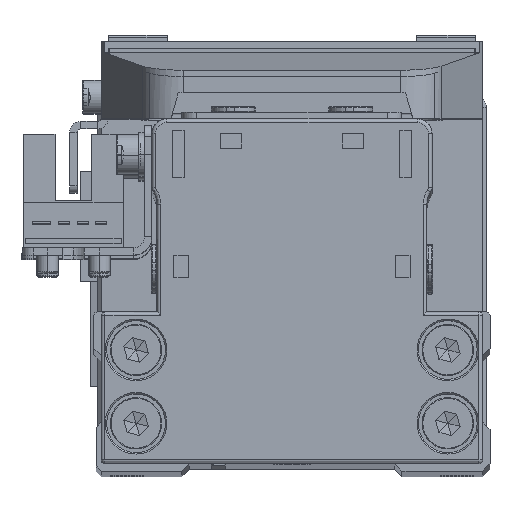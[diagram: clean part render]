
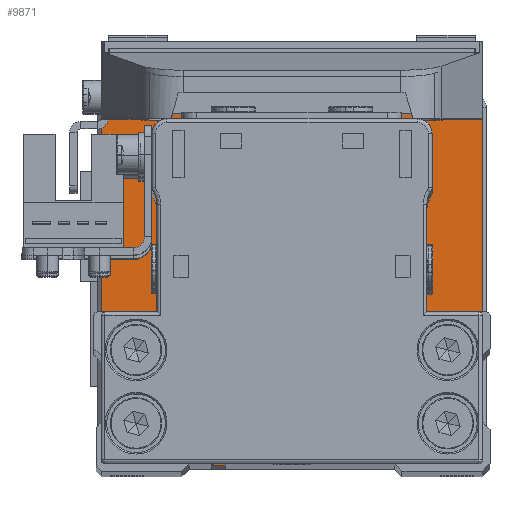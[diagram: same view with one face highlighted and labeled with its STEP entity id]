
A CAD part, top view. The second image highlights one B-rep face of the part: STEP entity #9871.
In plain terms, the highlighted planar face has unit normal (0, 0, 1).
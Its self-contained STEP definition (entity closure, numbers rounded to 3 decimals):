
#8 = ORIENTED_EDGE ( 'NONE', *, *, #374, .T. ) ;
#70 = FACE_BOUND ( 'NONE', #12785, .T. ) ;
#296 = ORIENTED_EDGE ( 'NONE', *, *, #2622, .T. ) ;
#374 = EDGE_CURVE ( 'NONE', #23775, #23513, #12039, .T. ) ;
#557 = VERTEX_POINT ( 'NONE', #30591 ) ;
#745 = DIRECTION ( 'NONE',  ( 0., 0., -1. ) ) ;
#1030 = ORIENTED_EDGE ( 'NONE', *, *, #2238, .T. ) ;
#1153 = CARTESIAN_POINT ( 'NONE',  ( -21.25, 19.95, 6.5 ) ) ;
#1466 = DIRECTION ( 'NONE',  ( -1., 0., 0. ) ) ;
#1768 = CARTESIAN_POINT ( 'NONE',  ( -21.25, 9.95, 6.5 ) ) ;
#2078 = CARTESIAN_POINT ( 'NONE',  ( 25., 24.95, 6.5 ) ) ;
#2121 = EDGE_LOOP ( 'NONE', ( #296, #11627 ) ) ;
#2145 = VERTEX_POINT ( 'NONE', #6523 ) ;
#2238 = EDGE_CURVE ( 'NONE', #14342, #25494, #23230, .T. ) ;
#2622 = EDGE_CURVE ( 'NONE', #26181, #2145, #14504, .T. ) ;
#2886 = EDGE_CURVE ( 'NONE', #23513, #3610, #29550, .T. ) ;
#3199 = CARTESIAN_POINT ( 'NONE',  ( -25., 24.95, 6.5 ) ) ;
#3273 = CARTESIAN_POINT ( 'NONE',  ( -25., -24.95, 6.5 ) ) ;
#3415 = AXIS2_PLACEMENT_3D ( 'NONE', #1768, #12256, #22712 ) ;
#3477 = CARTESIAN_POINT ( 'NONE',  ( 21.25, 19.95, 6.5 ) ) ;
#3532 = VERTEX_POINT ( 'NONE', #17340 ) ;
#3610 = VERTEX_POINT ( 'NONE', #30703 ) ;
#3901 = ORIENTED_EDGE ( 'NONE', *, *, #29190, .T. ) ;
#3951 = CARTESIAN_POINT ( 'NONE',  ( 25., -23.95, 6.5 ) ) ;
#4456 = CARTESIAN_POINT ( 'NONE',  ( 21.25, 9.95, 6.5 ) ) ;
#4714 = DIRECTION ( 'NONE',  ( 0., 0., -1. ) ) ;
#4858 = AXIS2_PLACEMENT_3D ( 'NONE', #5119, #15590, #26041 ) ;
#5119 = CARTESIAN_POINT ( 'NONE',  ( 25., 23.95, 6.5 ) ) ;
#5229 = CARTESIAN_POINT ( 'NONE',  ( -23.65, 9.95, 6.5 ) ) ;
#5262 = CIRCLE ( 'NONE', #24431, 2.4 ) ;
#5271 = VECTOR ( 'NONE', #15859, 1000. ) ;
#5382 = CARTESIAN_POINT ( 'NONE',  ( 26., 23.95, 6.5 ) ) ;
#5391 = DIRECTION ( 'NONE',  ( 1., 0., 0. ) ) ;
#5535 = ORIENTED_EDGE ( 'NONE', *, *, #18763, .T. ) ;
#5738 = EDGE_CURVE ( 'NONE', #16192, #30788, #9950, .T. ) ;
#6059 = CARTESIAN_POINT ( 'NONE',  ( 25., -24.95, 6.5 ) ) ;
#6090 = CARTESIAN_POINT ( 'NONE',  ( -25., -23.95, 6.5 ) ) ;
#6523 = CARTESIAN_POINT ( 'NONE',  ( -18.85, 9.95, 6.5 ) ) ;
#6627 = CARTESIAN_POINT ( 'NONE',  ( -21.25, 19.95, 6.5 ) ) ;
#6653 = DIRECTION ( 'NONE',  ( 0., 0., -1. ) ) ;
#7163 = DIRECTION ( 'NONE',  ( 1., 0., 0. ) ) ;
#7318 = VERTEX_POINT ( 'NONE', #11213 ) ;
#7363 = EDGE_CURVE ( 'NONE', #25890, #23148, #29922, .T. ) ;
#7598 = EDGE_CURVE ( 'NONE', #557, #23775, #7879, .T. ) ;
#7617 = EDGE_LOOP ( 'NONE', ( #32164, #28901 ) ) ;
#7879 = LINE ( 'NONE', #18346, #32120 ) ;
#7980 = PLANE ( 'NONE',  #23682 ) ;
#8452 = AXIS2_PLACEMENT_3D ( 'NONE', #4456, #14926, #25379 ) ;
#8711 = ORIENTED_EDGE ( 'NONE', *, *, #7363, .T. ) ;
#9065 = ORIENTED_EDGE ( 'NONE', *, *, #32107, .T. ) ;
#9871 = ADVANCED_FACE ( 'NONE', ( #23586, #70, #10551, #21009, #31473 ), #7980, .T. ) ;
#9950 = CIRCLE ( 'NONE', #29111, 2.4 ) ;
#10090 = AXIS2_PLACEMENT_3D ( 'NONE', #20199, #30659, #7163 ) ;
#10551 = FACE_BOUND ( 'NONE', #2121, .T. ) ;
#11213 = CARTESIAN_POINT ( 'NONE',  ( 26., 23.95, 6.5 ) ) ;
#11229 = DIRECTION ( 'NONE',  ( -1., 0., 0. ) ) ;
#11627 = ORIENTED_EDGE ( 'NONE', *, *, #22210, .T. ) ;
#11650 = DIRECTION ( 'NONE',  ( 0., 0., -1. ) ) ;
#12039 = CIRCLE ( 'NONE', #31186, 1. ) ;
#12050 = CARTESIAN_POINT ( 'NONE',  ( 18.85, 9.95, 6.5 ) ) ;
#12256 = DIRECTION ( 'NONE',  ( 0., 0., -1. ) ) ;
#12666 = AXIS2_PLACEMENT_3D ( 'NONE', #24255, #745, #11229 ) ;
#12785 = EDGE_LOOP ( 'NONE', ( #1030, #21410 ) ) ;
#13196 = CIRCLE ( 'NONE', #32367, 2.4 ) ;
#13678 = DIRECTION ( 'NONE',  ( -1., 0., 0. ) ) ;
#13960 = DIRECTION ( 'NONE',  ( 0., 0., -1. ) ) ;
#14342 = VERTEX_POINT ( 'NONE', #12050 ) ;
#14429 = DIRECTION ( 'NONE',  ( 0., 0., 1. ) ) ;
#14504 = CIRCLE ( 'NONE', #33660, 2.4 ) ;
#14569 = CARTESIAN_POINT ( 'NONE',  ( 23.65, 9.95, 6.5 ) ) ;
#14681 = EDGE_LOOP ( 'NONE', ( #5535, #29746, #8, #26584, #22321, #3901, #9065, #22495 ) ) ;
#14926 = DIRECTION ( 'NONE',  ( 0., 0., -1. ) ) ;
#15145 = AXIS2_PLACEMENT_3D ( 'NONE', #3477, #13960, #24406 ) ;
#15195 = DIRECTION ( 'NONE',  ( -1., 0., 0. ) ) ;
#15376 = AXIS2_PLACEMENT_3D ( 'NONE', #3951, #14429, #24878 ) ;
#15389 = CARTESIAN_POINT ( 'NONE',  ( -23.65, 19.95, 6.5 ) ) ;
#15590 = DIRECTION ( 'NONE',  ( 0., 0., 1. ) ) ;
#15859 = DIRECTION ( 'NONE',  ( 0., 1., 0. ) ) ;
#16192 = VERTEX_POINT ( 'NONE', #15389 ) ;
#16534 = DIRECTION ( 'NONE',  ( 1., 0., 0. ) ) ;
#16567 = DIRECTION ( 'NONE',  ( 0., 0., 1. ) ) ;
#16874 = CARTESIAN_POINT ( 'NONE',  ( 23.65, 19.95, 6.5 ) ) ;
#17122 = DIRECTION ( 'NONE',  ( -1., 0., 0. ) ) ;
#17295 = EDGE_CURVE ( 'NONE', #30788, #16192, #13196, .T. ) ;
#17340 = CARTESIAN_POINT ( 'NONE',  ( -25., 24.95, 6.5 ) ) ;
#18207 = CIRCLE ( 'NONE', #3415, 2.4 ) ;
#18346 = CARTESIAN_POINT ( 'NONE',  ( -26., -23.95, 6.5 ) ) ;
#18416 = CARTESIAN_POINT ( 'NONE',  ( 26., -23.95, 6.5 ) ) ;
#18438 = CARTESIAN_POINT ( 'NONE',  ( 0., 0., 6.5 ) ) ;
#18763 = EDGE_CURVE ( 'NONE', #3532, #557, #24886, .T. ) ;
#19011 = ORIENTED_EDGE ( 'NONE', *, *, #26116, .T. ) ;
#19312 = EDGE_LOOP ( 'NONE', ( #8711, #19011 ) ) ;
#19326 = CARTESIAN_POINT ( 'NONE',  ( 18.85, 19.95, 6.5 ) ) ;
#19655 = CIRCLE ( 'NONE', #4858, 1. ) ;
#20002 = CARTESIAN_POINT ( 'NONE',  ( -18.85, 19.95, 6.5 ) ) ;
#20199 = CARTESIAN_POINT ( 'NONE',  ( -25., 23.95, 6.5 ) ) ;
#20711 = EDGE_CURVE ( 'NONE', #25494, #14342, #27438, .T. ) ;
#21009 = FACE_BOUND ( 'NONE', #7617, .T. ) ;
#21410 = ORIENTED_EDGE ( 'NONE', *, *, #20711, .T. ) ;
#22103 = DIRECTION ( 'NONE',  ( -1., 0., 0. ) ) ;
#22210 = EDGE_CURVE ( 'NONE', #2145, #26181, #18207, .T. ) ;
#22321 = ORIENTED_EDGE ( 'NONE', *, *, #33798, .T. ) ;
#22495 = ORIENTED_EDGE ( 'NONE', *, *, #30596, .T. ) ;
#22712 = DIRECTION ( 'NONE',  ( -1., 0., 0. ) ) ;
#23148 = VERTEX_POINT ( 'NONE', #16874 ) ;
#23230 = CIRCLE ( 'NONE', #8452, 2.4 ) ;
#23513 = VERTEX_POINT ( 'NONE', #3273 ) ;
#23586 = FACE_BOUND ( 'NONE', #19312, .T. ) ;
#23682 = AXIS2_PLACEMENT_3D ( 'NONE', #18438, #28889, #5391 ) ;
#23775 = VERTEX_POINT ( 'NONE', #33447 ) ;
#24255 = CARTESIAN_POINT ( 'NONE',  ( 21.25, 9.95, 6.5 ) ) ;
#24406 = DIRECTION ( 'NONE',  ( -1., 0., 0. ) ) ;
#24431 = AXIS2_PLACEMENT_3D ( 'NONE', #28215, #4714, #15195 ) ;
#24878 = DIRECTION ( 'NONE',  ( 1., 0., 0. ) ) ;
#24886 = CIRCLE ( 'NONE', #10090, 1. ) ;
#24977 = DIRECTION ( 'NONE',  ( 0., 0., -1. ) ) ;
#25379 = DIRECTION ( 'NONE',  ( -1., 0., 0. ) ) ;
#25494 = VERTEX_POINT ( 'NONE', #14569 ) ;
#25890 = VERTEX_POINT ( 'NONE', #19326 ) ;
#26041 = DIRECTION ( 'NONE',  ( 1., 0., 0. ) ) ;
#26116 = EDGE_CURVE ( 'NONE', #23148, #25890, #5262, .T. ) ;
#26181 = VERTEX_POINT ( 'NONE', #5229 ) ;
#26584 = ORIENTED_EDGE ( 'NONE', *, *, #2886, .T. ) ;
#26704 = LINE ( 'NONE', #3199, #30004 ) ;
#26839 = VECTOR ( 'NONE', #16534, 1000. ) ;
#27010 = DIRECTION ( 'NONE',  ( 1., 0., 0. ) ) ;
#27438 = CIRCLE ( 'NONE', #12666, 2.4 ) ;
#28215 = CARTESIAN_POINT ( 'NONE',  ( 21.25, 19.95, 6.5 ) ) ;
#28791 = DIRECTION ( 'NONE',  ( 0., -1., 0. ) ) ;
#28881 = LINE ( 'NONE', #5382, #5271 ) ;
#28889 = DIRECTION ( 'NONE',  ( 0., 0., 1. ) ) ;
#28901 = ORIENTED_EDGE ( 'NONE', *, *, #17295, .T. ) ;
#29111 = AXIS2_PLACEMENT_3D ( 'NONE', #6627, #24977, #1466 ) ;
#29190 = EDGE_CURVE ( 'NONE', #33084, #7318, #28881, .T. ) ;
#29550 = LINE ( 'NONE', #6059, #26839 ) ;
#29746 = ORIENTED_EDGE ( 'NONE', *, *, #7598, .T. ) ;
#29922 = CIRCLE ( 'NONE', #15145, 2.4 ) ;
#30004 = VECTOR ( 'NONE', #13678, 1000. ) ;
#30148 = CARTESIAN_POINT ( 'NONE',  ( -21.25, 9.95, 6.5 ) ) ;
#30158 = CIRCLE ( 'NONE', #15376, 1. ) ;
#30591 = CARTESIAN_POINT ( 'NONE',  ( -26., 23.95, 6.5 ) ) ;
#30596 = EDGE_CURVE ( 'NONE', #33443, #3532, #26704, .T. ) ;
#30659 = DIRECTION ( 'NONE',  ( 0., 0., 1. ) ) ;
#30703 = CARTESIAN_POINT ( 'NONE',  ( 25., -24.95, 6.5 ) ) ;
#30788 = VERTEX_POINT ( 'NONE', #20002 ) ;
#31186 = AXIS2_PLACEMENT_3D ( 'NONE', #6090, #16567, #27010 ) ;
#31473 = FACE_OUTER_BOUND ( 'NONE', #14681, .T. ) ;
#32107 = EDGE_CURVE ( 'NONE', #7318, #33443, #19655, .T. ) ;
#32120 = VECTOR ( 'NONE', #28791, 1000. ) ;
#32164 = ORIENTED_EDGE ( 'NONE', *, *, #5738, .T. ) ;
#32367 = AXIS2_PLACEMENT_3D ( 'NONE', #1153, #11650, #22103 ) ;
#33084 = VERTEX_POINT ( 'NONE', #18416 ) ;
#33443 = VERTEX_POINT ( 'NONE', #2078 ) ;
#33447 = CARTESIAN_POINT ( 'NONE',  ( -26., -23.95, 6.5 ) ) ;
#33660 = AXIS2_PLACEMENT_3D ( 'NONE', #30148, #6653, #17122 ) ;
#33798 = EDGE_CURVE ( 'NONE', #3610, #33084, #30158, .T. ) ;
